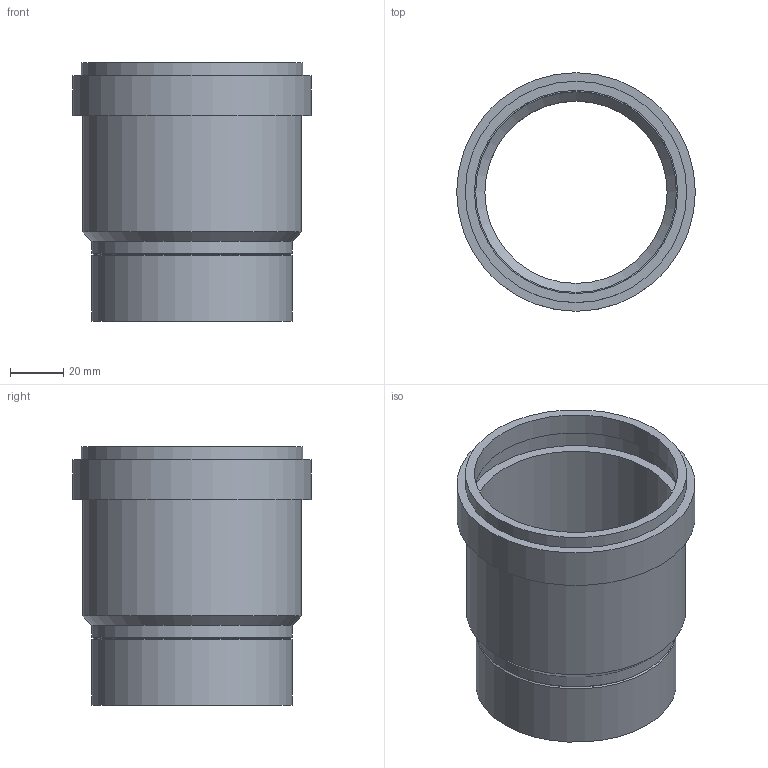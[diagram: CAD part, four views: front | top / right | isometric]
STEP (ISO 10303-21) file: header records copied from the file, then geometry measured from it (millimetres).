
FILE_DESCRIPTION(/* description */ (''),/* implementation_level */ '2;1');
FILE_NAME(/* name */ 'C:\Geberit-Teile\Export 2019\360.779.16.3\stp\365779.stp',/* time_stamp */ '2019-06-06T10:45:19+02:00',/* author */ ('JANAN'),/* organization */ (''),/* preprocessor_version */ 'ST-DEVELOPER v16.13',/* originating_system */ 'Autodesk Inventor 2018',/* authorisation */ '');
FILE_SCHEMA (('AUTOMOTIVE_DESIGN { 1 0 10303 214 3 1 1 }'));
Length unit declared in the file: millimetre
Products named in the file (1): StMuf mit LipDicht PE-HD d75 L9.7
Bounding box: 89.7 x 89.7 x 97 mm (x, y, z)
Volume: 87563.4 mm3; surface area: 53259.3 mm2
Topology: 1 solids, 1 shells, 19 faces, 34 edges, 21 vertices
Faces by surface type: cylinder 9, plane 6, cone 4
Full cylindrical faces by diameter (mm): 68.55 x1, 75.35 x2, 75.5 x1, 76.4 x1, 82.3 x1, 82.9 x1, 83.2 x1, 89.7 x1
Entity records: 446 total; most frequent: DIRECTION 78, CARTESIAN_POINT 58, AXIS2_PLACEMENT_3D 39, EDGE_LOOP 38, ORIENTED_EDGE 38, STYLED_ITEM 20, FACE_BOUND 19, FACE_OUTER_BOUND 19
